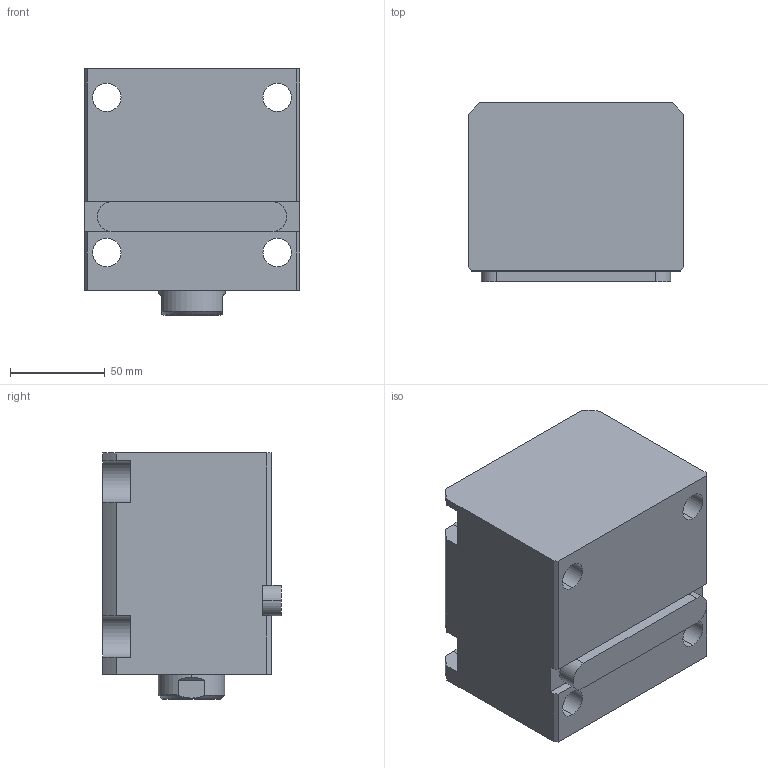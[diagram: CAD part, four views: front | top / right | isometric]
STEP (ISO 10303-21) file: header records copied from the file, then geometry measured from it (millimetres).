
FILE_DESCRIPTION (( 'STEP AP214' ), '1' );
FILE_NAME ('chtb-la63x50n_asm.STEP', '2018-05-02T07:02:11', ( 'Windows' ), ( 'Microsoft' ), 'SwSTEP 2.0', 'SolidWorks 2015', '' );
FILE_SCHEMA (( 'AUTOMOTIVE_DESIGN' ));
Length unit declared in the file: millimetre
Products named in the file (5): CHTB-LA63X50NBT; CHTB-LA63PJ; CHTB63X50NHSG; CHTB-63QG; chtb-la63x50n_asm
Assembly tree (4 placements, depth 2):
  chtb-la63x50n_asm
    CHTB-63QG
    CHTB63X50NHSG
    CHTB-LA63PJ
    CHTB-LA63X50NBT
Bounding box: 114 x 94.5 x 130 mm (x, y, z)
Volume: 1001805.9 mm3; surface area: 152183 mm2
Topology: 4 solids, 4 shells, 174 faces, 510 edges, 348 vertices
Faces by surface type: cylinder 98, plane 45, bspline 12, cone 12, torus 7
Entity records: 18177 total; most frequent: CARTESIAN_POINT 13678, ORIENTED_EDGE 1008, DIRECTION 778, EDGE_CURVE 504, VERTEX_POINT 348, AXIS2_PLACEMENT_3D 295, EDGE_LOOP 198, LINE 188
